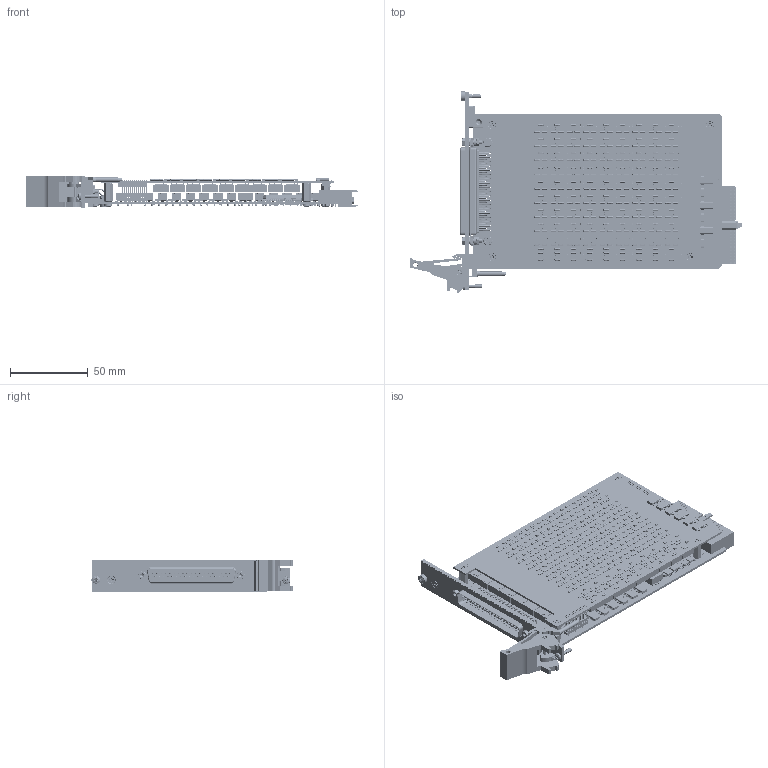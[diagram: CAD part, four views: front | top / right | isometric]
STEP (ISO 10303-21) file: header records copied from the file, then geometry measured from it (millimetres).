
FILE_DESCRIPTION (( 'STEP AP214' ), '1' );
FILE_NAME ('40-297-031 BASIC ASSY-S20.STEP', '2017-09-22T08:13:02', ( 'admin' ), ( 'Hewlett-Packard Company' ), 'SwSTEP 2.0', 'SolidWorks 2016', '' );
FILE_SCHEMA (( 'AUTOMOTIVE_DESIGN' ));
Length unit declared in the file: millimetre
Products named in the file (1059): C-FX-165 Handle Body; C-IC-124 16-Bit Constant Current Sink Driver; C-RS-862 0204 Surface Mount; C-SC-056 Diode 1SS355TE-17; C-CN-902-PIN Samtec Female Header Pin; C-CP-034; C-RL-248 Relay IMO3-5v Surface Mount; C-RS-152 Res 10K 0603 1-16W 1% 300PPM; C-FX-101 M2.5x6mm Pan Head Cross Recess Screw_ISO_ISO 7045 - M2.5 x 6 - Z --- 6N; C-FX-101 M2.5x6mm Pan Head Cross Recess Screw_ISO; C-IC-100 IC 74HCT273 SMD; C-IC-087 IC 74HCT32D Logic IC Smt_No Text; C-RS-079 Res N-W 4x10K 1206 CRA3A4E10K; A-PC-595-X31-# PROG RES DAUGHTER 40-297-031; L-FP-399-# PXI FP Label; C-FX-042 Screw M2.5x6 CSK Pozi_M 2.5x06 - C-FX-042; C-FX-273 M3 X 6 SLOTTED PAN SCREW; C-BP-015 PXI 3U x 1 Slot Blank Panel; C-FX-025 Pcb Mounting Bracket; C-CN-073 WASHER plain; C-IC-155 93LC66B-SN (SO8)_No Text; C-CN-902-BODY Samtec 15x2 Female Header; C-CN-1310 9.27mm 15 X 2 TH STRAIGHT MALE; C-CN-1310 TOP PART; Z-FX-2001 FP Fixing - Bush + Screw; C-CN-073-SPRING WASHER; C-IC-087 IC 74HCT32D Logic IC Smt; C-CP-141 CAP 10UF 1206 35V X5R 10%; C-CN-1310 PINS 2; C-BK-026 Bush Front Panel Mounting; C-CN-073-NUT M2-5 Screwlock nut; C-IC-155 93LC66B-SN (SO8); C-CN-902 Samtec 15x2 Female Header; C-CN-1310 PINS 1; C-FX-165 CPCI Ejector Handle; C-CN-073-SCREW 4-40 UNC Screwlock; C-PC-594 PROGRAMMABLE RESISTOR MODULE; C-CN-1310 BOTTOM PART; L-FX-165 PXI Handle Label; C-PC-595 PROGRAMMABLE RESISTOR CARD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
Assembly tree (978 placements, depth 5):
  C-FX-165 Handle Body
  C-IC-124 16-Bit Constant Current Sink Driver
  C-RS-862 0204 Surface Mount
  C-RS-862 0204 Surface Mount
  C-RS-862 0204 Surface Mount
Bounding box: 214.01 x 129.67 x 20 mm (x, y, z)
Volume: 128700.4 mm3; surface area: 171781.9 mm2
Topology: 1013 solids, 1084 shells, 49651 faces, 123413 edges, 78246 vertices
Faces by surface type: plane 31229, cylinder 14348, torus 2265, sphere 817, cone 585, bspline 407
Entity records: 474964 total; most frequent: CARTESIAN_POINT 78167, DIRECTION 67878, ORIENTED_EDGE 64338, EDGE_CURVE 32171, AXIS2_PLACEMENT_3D 23873, VERTEX_POINT 20925, VECTOR 20132, LINE 20132
